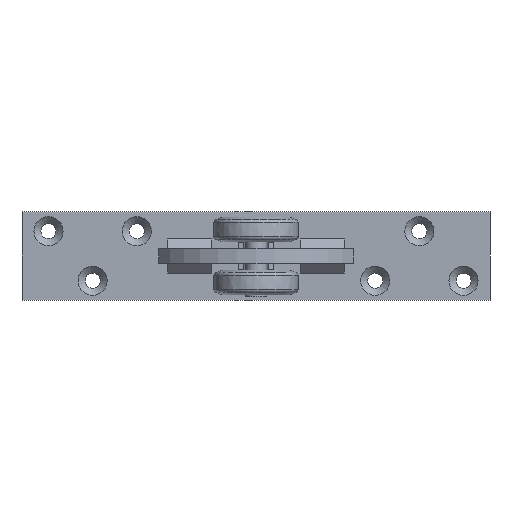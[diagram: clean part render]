
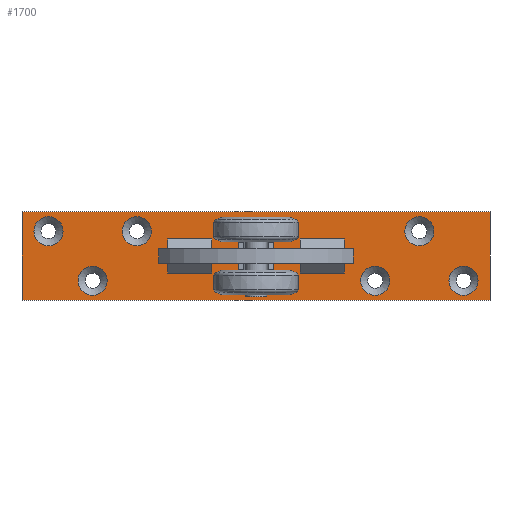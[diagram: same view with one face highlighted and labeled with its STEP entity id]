
A CAD part, front view. The second image highlights one B-rep face of the part: STEP entity #1700.
In plain terms, the highlighted planar face has unit normal (0, -1, 0) as drawn and (0, 0, 1) by its records, which use the part's own axes.
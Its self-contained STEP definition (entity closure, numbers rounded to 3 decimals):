
#101=FACE_BOUND('',#424,.T.);
#102=FACE_BOUND('',#425,.T.);
#103=FACE_BOUND('',#426,.T.);
#104=FACE_BOUND('',#427,.T.);
#105=FACE_BOUND('',#428,.T.);
#106=FACE_BOUND('',#429,.T.);
#140=CIRCLE('',#1813,8.25);
#143=CIRCLE('',#1818,8.25);
#146=CIRCLE('',#1823,8.25);
#149=CIRCLE('',#1828,8.25);
#152=CIRCLE('',#1833,8.25);
#155=CIRCLE('',#1838,8.25);
#299=FACE_OUTER_BOUND('',#423,.T.);
#423=EDGE_LOOP('',(#1311,#1312,#1313,#1314));
#424=EDGE_LOOP('',(#1315));
#425=EDGE_LOOP('',(#1316));
#426=EDGE_LOOP('',(#1317));
#427=EDGE_LOOP('',(#1318));
#428=EDGE_LOOP('',(#1319));
#429=EDGE_LOOP('',(#1320));
#576=LINE('',#2656,#704);
#580=LINE('',#2663,#708);
#583=LINE('',#2669,#711);
#585=LINE('',#2672,#713);
#704=VECTOR('',#2158,50.);
#708=VECTOR('',#2164,265.);
#711=VECTOR('',#2169,50.);
#713=VECTOR('',#2173,265.);
#816=VERTEX_POINT('',#2602);
#819=VERTEX_POINT('',#2610);
#822=VERTEX_POINT('',#2618);
#825=VERTEX_POINT('',#2626);
#828=VERTEX_POINT('',#2634);
#831=VERTEX_POINT('',#2642);
#836=VERTEX_POINT('',#2653);
#837=VERTEX_POINT('',#2655);
#839=VERTEX_POINT('',#2661);
#841=VERTEX_POINT('',#2667);
#993=EDGE_CURVE('',#816,#816,#140,.T.);
#996=EDGE_CURVE('',#819,#819,#143,.T.);
#999=EDGE_CURVE('',#822,#822,#146,.T.);
#1002=EDGE_CURVE('',#825,#825,#149,.T.);
#1005=EDGE_CURVE('',#828,#828,#152,.T.);
#1008=EDGE_CURVE('',#831,#831,#155,.T.);
#1013=EDGE_CURVE('',#836,#837,#576,.T.);
#1017=EDGE_CURVE('',#839,#836,#580,.T.);
#1020=EDGE_CURVE('',#841,#839,#583,.T.);
#1022=EDGE_CURVE('',#837,#841,#585,.T.);
#1311=ORIENTED_EDGE('',*,*,#1022,.F.);
#1312=ORIENTED_EDGE('',*,*,#1013,.F.);
#1313=ORIENTED_EDGE('',*,*,#1017,.F.);
#1314=ORIENTED_EDGE('',*,*,#1020,.F.);
#1315=ORIENTED_EDGE('',*,*,#993,.T.);
#1316=ORIENTED_EDGE('',*,*,#996,.T.);
#1317=ORIENTED_EDGE('',*,*,#999,.T.);
#1318=ORIENTED_EDGE('',*,*,#1002,.T.);
#1319=ORIENTED_EDGE('',*,*,#1005,.T.);
#1320=ORIENTED_EDGE('',*,*,#1008,.T.);
#1618=PLANE('',#1846);
#1700=ADVANCED_FACE('',(#299,#101,#102,#103,#104,#105,#106),#1618,.T.);
#1813=AXIS2_PLACEMENT_3D('',#2603,#2096,#2097);
#1818=AXIS2_PLACEMENT_3D('',#2611,#2106,#2107);
#1823=AXIS2_PLACEMENT_3D('',#2619,#2116,#2117);
#1828=AXIS2_PLACEMENT_3D('',#2627,#2126,#2127);
#1833=AXIS2_PLACEMENT_3D('',#2635,#2136,#2137);
#1838=AXIS2_PLACEMENT_3D('',#2643,#2146,#2147);
#1846=AXIS2_PLACEMENT_3D('',#2673,#2174,#2175);
#2096=DIRECTION('center_axis',(0.,0.,-1.));
#2097=DIRECTION('ref_axis',(1.,0.,0.));
#2106=DIRECTION('center_axis',(0.,0.,-1.));
#2107=DIRECTION('ref_axis',(1.,0.,0.));
#2116=DIRECTION('center_axis',(0.,0.,-1.));
#2117=DIRECTION('ref_axis',(1.,0.,0.));
#2126=DIRECTION('center_axis',(0.,0.,-1.));
#2127=DIRECTION('ref_axis',(1.,0.,0.));
#2136=DIRECTION('center_axis',(0.,0.,-1.));
#2137=DIRECTION('ref_axis',(1.,0.,0.));
#2146=DIRECTION('center_axis',(0.,0.,-1.));
#2147=DIRECTION('ref_axis',(1.,0.,0.));
#2158=DIRECTION('',(0.,1.,0.));
#2164=DIRECTION('',(-1.,0.,0.));
#2169=DIRECTION('',(0.,-1.,0.));
#2173=DIRECTION('',(1.,0.,0.));
#2174=DIRECTION('center_axis',(0.,0.,1.));
#2175=DIRECTION('ref_axis',(1.,0.,0.));
#2602=CARTESIAN_POINT('',(125.75,-14.,0.));
#2603=CARTESIAN_POINT('Origin',(117.5,-14.,0.));
#2610=CARTESIAN_POINT('',(-59.25,14.,0.));
#2611=CARTESIAN_POINT('Origin',(-67.5,14.,0.));
#2618=CARTESIAN_POINT('',(75.75,-14.,0.));
#2619=CARTESIAN_POINT('Origin',(67.5,-14.,0.));
#2626=CARTESIAN_POINT('',(100.75,14.,0.));
#2627=CARTESIAN_POINT('Origin',(92.5,14.,0.));
#2634=CARTESIAN_POINT('',(-84.25,-14.,0.));
#2635=CARTESIAN_POINT('Origin',(-92.5,-14.,0.));
#2642=CARTESIAN_POINT('',(-109.25,14.,0.));
#2643=CARTESIAN_POINT('Origin',(-117.5,14.,0.));
#2653=CARTESIAN_POINT('',(-132.5,-25.,0.));
#2655=CARTESIAN_POINT('',(-132.5,25.,0.));
#2656=CARTESIAN_POINT('',(-132.5,-25.,0.));
#2661=CARTESIAN_POINT('',(132.5,-25.,0.));
#2663=CARTESIAN_POINT('',(132.5,-25.,0.));
#2667=CARTESIAN_POINT('',(132.5,25.,0.));
#2669=CARTESIAN_POINT('',(132.5,25.,0.));
#2672=CARTESIAN_POINT('',(-132.5,25.,0.));
#2673=CARTESIAN_POINT('Origin',(0.,0.,
0.));
